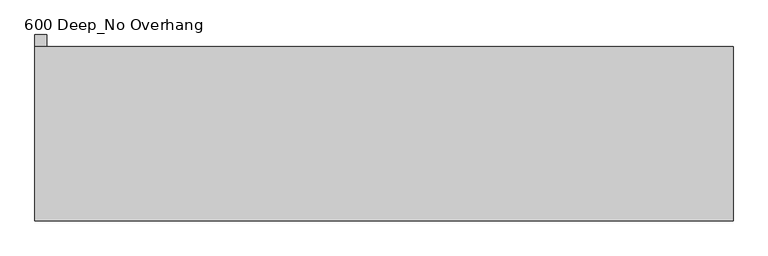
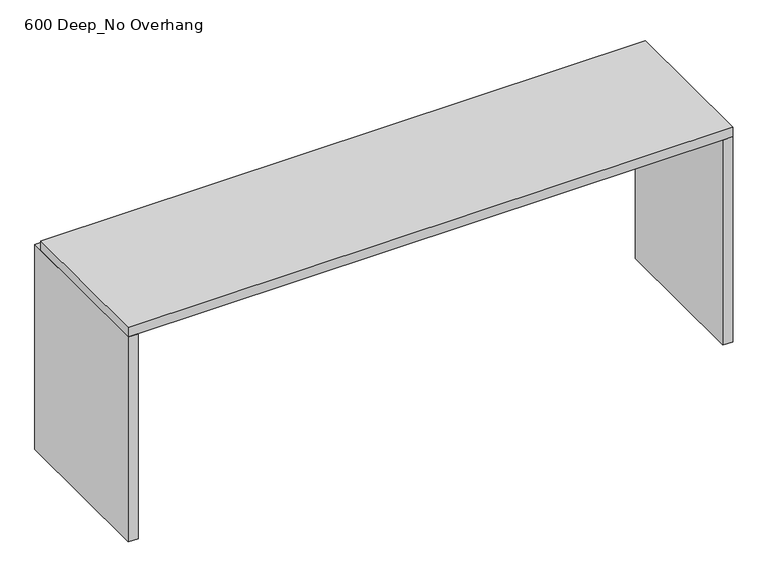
"""IFC4 building model written with IfcOpenShell, lengths in millimetres: furniture geometry, Benchtop_Optional Hole_I Shaped_CAS : 600 Deep_No Overhang."""

from ifc_helpers import new_model, si_unit, frame, origin, origin_with_axes, place, context, project, spatial, polyline, outline, extrude, source, transform, mapped, element, save


def furniture_600_deep_no_overhang_9da0da39(model_context):
    return source(origin(), model_context, "Body", "SweptSolid", [
        extrude(outline(polyline([(1204.7003264, -600.0), (1204.7003264, 0.0), (1244.7003264, 0.0), (1244.7003264, -600.0), (1204.7003264, -600.0)])), origin_with_axes(), (0.0, 0.0, 1.0), 860.0),
        extrude(outline(polyline([(-1115.2996736, 40.0), (-1115.2996736, -600.0), (-1155.2996736, -600.0), (-1155.2996736, 40.0), (-1115.2996736, 40.0)])), origin_with_axes(), (0.0, 0.0, 1.0), 860.0),
        extrude(outline(polyline([(1244.7003264, 0.0), (1244.7003264, -600.0), (-1155.2996736, -600.0), (-1155.2996736, 0.0), (1244.7003264, 0.0)])), frame((0.0, 0.0, 860.0), z_axis=(0.0, 0.0, 1.0), x_axis=(1.0, 0.0, 0.0)), (0.0, 0.0, 1.0), 40.0),
    ])


if __name__ == "__main__":
    model = new_model("IFC4")
    model_context = context("Model", 3, world=origin())
    ifc_project = project(units=[si_unit("LENGTHUNIT", "METRE", prefix="MILLI")], contexts=[model_context])
    site = spatial("IfcSite", under=ifc_project)
    building = spatial("IfcBuilding", under=site)
    placement = place(None, origin())
    furniture_600_deep_no_overhang_shape = furniture_600_deep_no_overhang_9da0da39(model_context)
    element("IfcFurniture", 1, ObjectType="Benchtop_Optional Hole_I Shaped_CAS : 600 Deep_No Overhang", at=placement, inside=building, context=model_context, shape_type="MappedRepresentation", body=[
        mapped(furniture_600_deep_no_overhang_shape, transform((0.0, 0.0, 0.0), x_axis=(1.0, 0.0, 0.0), y_axis=(0.0, 1.0, 0.0), z_axis=(0.0, 0.0, 1.0))),
    ])
    save(model, "model.ifc")
